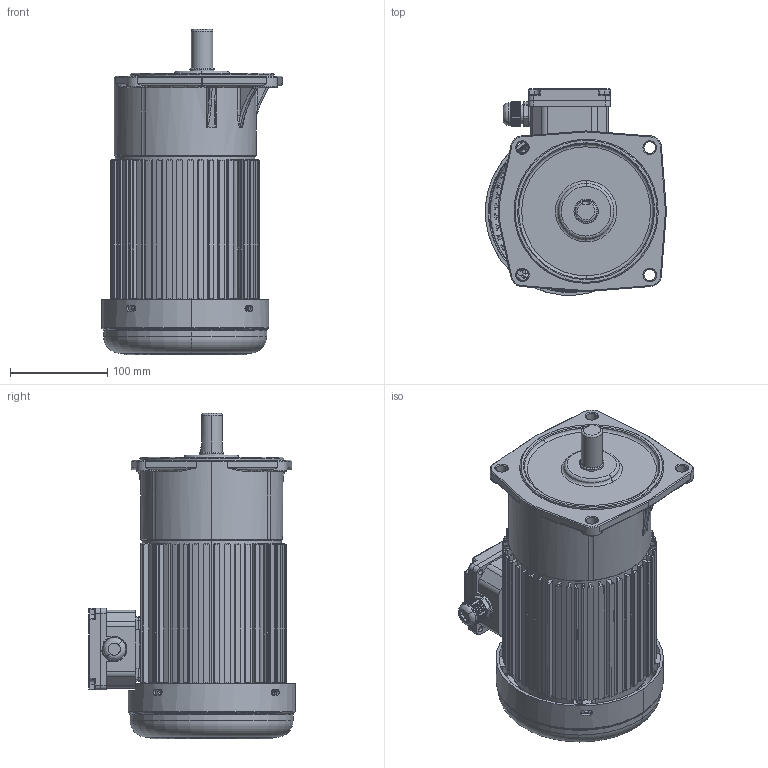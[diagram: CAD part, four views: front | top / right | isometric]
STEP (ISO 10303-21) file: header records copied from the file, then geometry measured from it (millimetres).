
FILE_DESCRIPTION (( 'STEP AP203' ), '1' );
FILE_NAME ('750W饜2#蕾宒.STEP', '2020-04-15T02:58:51', ( 'china' ), ( 'china' ), 'SwSTEP 2.0', 'SolidWorks 2019', '' );
FILE_SCHEMA (( 'CONFIG_CONTROL_DESIGN' ));
Length unit declared in the file: millimetre
Products named in the file (3): 750W饜2#蕾宒; 750W萇儂; 750W饜2#l蕾宒眊极
Assembly tree (2 placements, depth 2):
  750W饜2#蕾宒
    750W饜2#l蕾宒眊极
    750W萇儂
Bounding box: 185.77 x 211.71 x 334.13 mm (x, y, z)
Surface area: 555420.4 mm2 (no closed solid volume)
Topology: 0 solids, 9 shells, 2096 faces, 5660 edges, 3678 vertices
Faces by surface type: cylinder 1062, plane 702, bspline 290, torus 30, sphere 8, cone 4
Full cylindrical faces by diameter (mm): 4 x1
Entity records: 83686 total; most frequent: CARTESIAN_POINT 32402, ORIENTED_EDGE 11270, DIRECTION 9725, EDGE_CURVE 5637, AXIS2_PLACEMENT_3D 3701, VERTEX_POINT 3678, EDGE_LOOP 2595, LINE 2323
